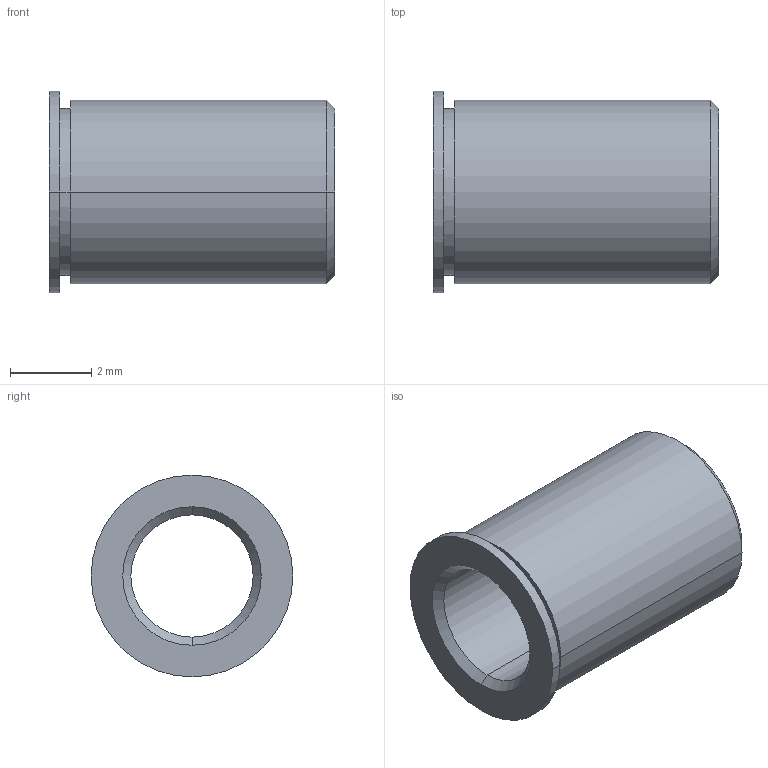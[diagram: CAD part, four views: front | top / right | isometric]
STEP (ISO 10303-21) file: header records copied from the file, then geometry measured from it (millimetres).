
FILE_DESCRIPTION (( 'STEP AP214' ), '1' );
FILE_NAME ('TB3-20-07-P.STEP', '2013-08-27T13:41:24', ( 'workpc' ), ( 'Microsoft' ), 'SwSTEP 2.0', 'SolidWorks 2013', '' );
FILE_SCHEMA (( 'AUTOMOTIVE_DESIGN' ));
Length unit declared in the file: millimetre
Products named in the file (1): TB3-20-07-P
Bounding box: 7 x 4.95 x 4.95 mm (x, y, z)
Volume: 61.3 mm3; surface area: 190.9 mm2
Topology: 1 solids, 1 shells, 18 faces, 36 edges, 22 vertices
Faces by surface type: cylinder 8, cone 6, plane 4
Entity records: 534 total; most frequent: DIRECTION 96, CARTESIAN_POINT 77, ORIENTED_EDGE 72, AXIS2_PLACEMENT_3D 41, EDGE_CURVE 36, CIRCLE 22, VERTEX_POINT 22, EDGE_LOOP 22
